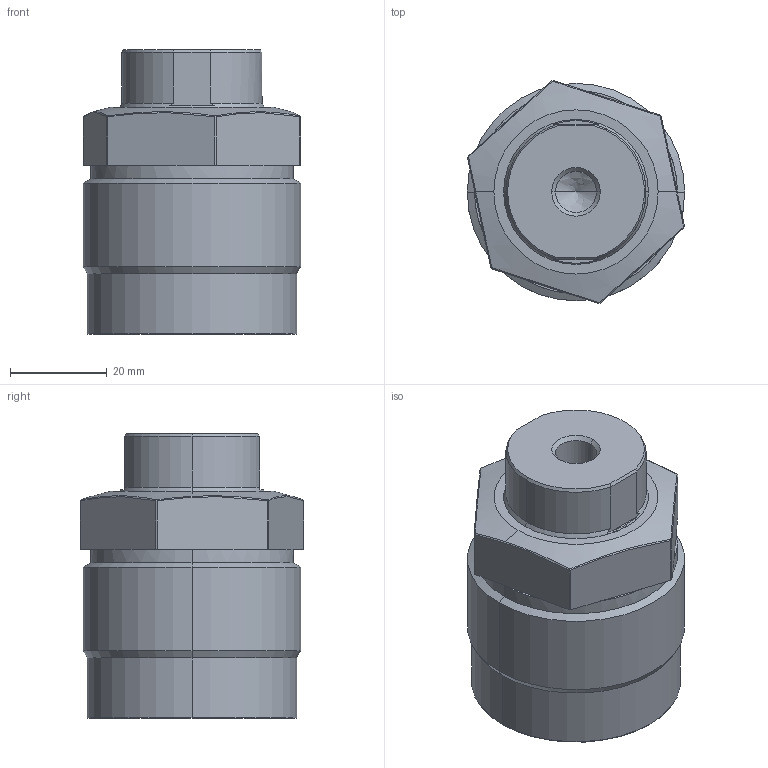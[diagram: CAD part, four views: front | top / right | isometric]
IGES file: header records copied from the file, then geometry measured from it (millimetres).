
Start section: SolidWorks IGES file using analytic representation for surfaces
Global section: file name: F:\THREADED BODY PUSHER-STD\TO3C-M455-S.IGS; native system: SolidWorks 2019; preprocessor: SolidWorks 2019; author: ADMIN; date: 200710.102834; units: millimetre
Bounding box: 45 x 46.2 x 59 mm (x, y, z)
Volume: 74315.7 mm3; surface area: 18042.9 mm2
Topology: 2 solids, 2 shells, 98 faces, 210 edges, 119 vertices
Faces by surface type: revolution 48, plane 44, bspline 6
